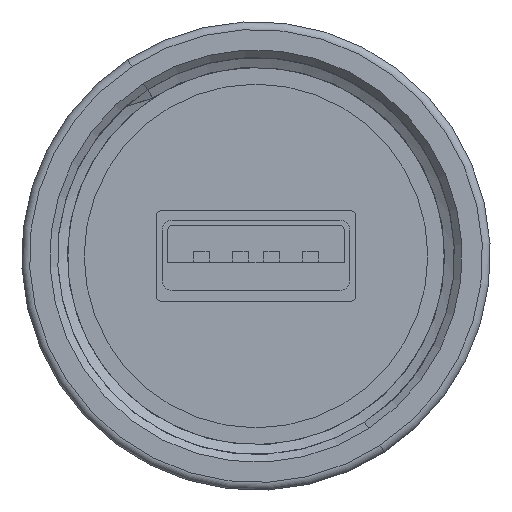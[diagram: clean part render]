
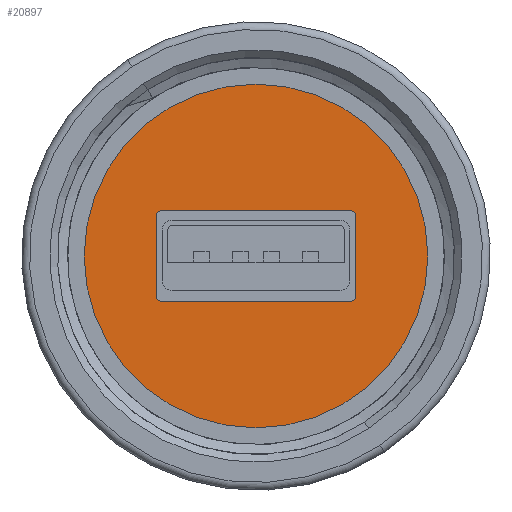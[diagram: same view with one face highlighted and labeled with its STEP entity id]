
A CAD part, front view. The second image highlights one B-rep face of the part: STEP entity #20897.
In plain terms, the highlighted planar face has unit normal (0, -1, 0).
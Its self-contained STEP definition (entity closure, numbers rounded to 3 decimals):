
#738 = LINE ( 'NONE', #11671, #28880 ) ;
#1211 = VERTEX_POINT ( 'NONE', #20522 ) ;
#2064 = CARTESIAN_POINT ( 'NONE',  ( 610.839, -8.1, 175.391 ) ) ;
#2240 = VERTEX_POINT ( 'NONE', #33540 ) ;
#3666 = EDGE_CURVE ( 'NONE', #20218, #18851, #29186, .T. ) ;
#4027 = CARTESIAN_POINT ( 'NONE',  ( 616.889, -8.1, 161.841 ) ) ;
#4458 = ORIENTED_EDGE ( 'NONE', *, *, #28924, .T. ) ;
#4505 = DIRECTION ( 'NONE',  ( 0., 1., 0. ) ) ;
#4776 = CIRCLE ( 'NONE', #27278, 0.35 ) ;
#5022 = CARTESIAN_POINT ( 'NONE',  ( 623.289, -8.1, 175.391 ) ) ;
#5720 = VECTOR ( 'NONE', #31319, 1000. ) ;
#6075 = DIRECTION ( 'NONE',  ( 0., 0., 1. ) ) ;
#6687 = VERTEX_POINT ( 'NONE', #11457 ) ;
#6988 = EDGE_LOOP ( 'NONE', ( #20673, #21668 ) ) ;
#7179 = EDGE_CURVE ( 'NONE', #6687, #30106, #29461, .T. ) ;
#7347 = DIRECTION ( 'NONE',  ( 0., 0., -1. ) ) ;
#8089 = ORIENTED_EDGE ( 'NONE', *, *, #3666, .T. ) ;
#8675 = CARTESIAN_POINT ( 'NONE',  ( 622.939, -8.1, 175.391 ) ) ;
#8729 = CARTESIAN_POINT ( 'NONE',  ( 610.839, -8.1, 170.291 ) ) ;
#8781 = DIRECTION ( 'NONE',  ( 1., 0., 0. ) ) ;
#9036 = DIRECTION ( 'NONE',  ( -1., 0., 0. ) ) ;
#9543 = VERTEX_POINT ( 'NONE', #12941 ) ;
#10525 = CARTESIAN_POINT ( 'NONE',  ( 622.939, -8.1, 170.291 ) ) ;
#10993 = LINE ( 'NONE', #21739, #19197 ) ;
#11082 = DIRECTION ( 'NONE',  ( 0., 0., 1. ) ) ;
#11457 = CARTESIAN_POINT ( 'NONE',  ( 610.489, -8.1, 175.391 ) ) ;
#11671 = CARTESIAN_POINT ( 'NONE',  ( 610.489, -8.1, 175.391 ) ) ;
#11994 = CIRCLE ( 'NONE', #32846, 0.35 ) ;
#12086 = ORIENTED_EDGE ( 'NONE', *, *, #29761, .T. ) ;
#12099 = EDGE_CURVE ( 'NONE', #20543, #1211, #14923, .T. ) ;
#12941 = CARTESIAN_POINT ( 'NONE',  ( 622.939, -8.1, 169.941 ) ) ;
#13220 = ORIENTED_EDGE ( 'NONE', *, *, #26158, .T. ) ;
#14859 = EDGE_CURVE ( 'NONE', #30048, #20218, #18799, .T. ) ;
#14923 = CIRCLE ( 'NONE', #19420, 11. ) ;
#16172 = DIRECTION ( 'NONE',  ( 0., 0., -1. ) ) ;
#16340 = VECTOR ( 'NONE', #8781, 1000. ) ;
#16349 = FACE_OUTER_BOUND ( 'NONE', #6988, .T. ) ;
#16943 = CARTESIAN_POINT ( 'NONE',  ( 623.289, -8.1, 175.391 ) ) ;
#16953 = DIRECTION ( 'NONE',  ( 0., 0., 1. ) ) ;
#18131 = ORIENTED_EDGE ( 'NONE', *, *, #19150, .T. ) ;
#18799 = CIRCLE ( 'NONE', #31769, 0.35 ) ;
#18822 = AXIS2_PLACEMENT_3D ( 'NONE', #26962, #24478, #11082 ) ;
#18851 = VERTEX_POINT ( 'NONE', #26027 ) ;
#19150 = EDGE_CURVE ( 'NONE', #2240, #31151, #11994, .T. ) ;
#19197 = VECTOR ( 'NONE', #9036, 1000. ) ;
#19420 = AXIS2_PLACEMENT_3D ( 'NONE', #23576, #26233, #34693 ) ;
#20218 = VERTEX_POINT ( 'NONE', #16943 ) ;
#20522 = CARTESIAN_POINT ( 'NONE',  ( 616.889, -8.1, 183.841 ) ) ;
#20543 = VERTEX_POINT ( 'NONE', #4027 ) ;
#20673 = ORIENTED_EDGE ( 'NONE', *, *, #12099, .F. ) ;
#20897 = ADVANCED_FACE ( 'NONE', ( #16349, #21809 ), #27105, .F. ) ;
#21668 = ORIENTED_EDGE ( 'NONE', *, *, #25985, .F. ) ;
#21739 = CARTESIAN_POINT ( 'NONE',  ( 610.839, -8.1, 169.941 ) ) ;
#21809 = FACE_BOUND ( 'NONE', #34397, .T. ) ;
#22554 = CARTESIAN_POINT ( 'NONE',  ( 610.839, -8.1, 175.741 ) ) ;
#22668 = CARTESIAN_POINT ( 'NONE',  ( 616.889, -8.1, 172.841 ) ) ;
#23257 = AXIS2_PLACEMENT_3D ( 'NONE', #2064, #26220, #7347 ) ;
#23576 = CARTESIAN_POINT ( 'NONE',  ( 616.889, -8.1, 172.841 ) ) ;
#23928 = DIRECTION ( 'NONE',  ( 0., 1., 0. ) ) ;
#24478 = DIRECTION ( 'NONE',  ( 0., 1., 0. ) ) ;
#24641 = ORIENTED_EDGE ( 'NONE', *, *, #33563, .T. ) ;
#24642 = CARTESIAN_POINT ( 'NONE',  ( 610.839, -8.1, 175.741 ) ) ;
#25168 = LINE ( 'NONE', #24642, #16340 ) ;
#25498 = DIRECTION ( 'NONE',  ( 0., 0., 1. ) ) ;
#25577 = CARTESIAN_POINT ( 'NONE',  ( 610.489, -8.1, 170.291 ) ) ;
#25985 = EDGE_CURVE ( 'NONE', #1211, #20543, #32887, .T. ) ;
#26027 = CARTESIAN_POINT ( 'NONE',  ( 623.289, -8.1, 170.291 ) ) ;
#26158 = EDGE_CURVE ( 'NONE', #18851, #9543, #4776, .T. ) ;
#26220 = DIRECTION ( 'NONE',  ( 0., 1., 0. ) ) ;
#26233 = DIRECTION ( 'NONE',  ( 0., 1., 0. ) ) ;
#26621 = ORIENTED_EDGE ( 'NONE', *, *, #7179, .T. ) ;
#26962 = CARTESIAN_POINT ( 'NONE',  ( 616.889, -8.1, 172.841 ) ) ;
#27105 = PLANE ( 'NONE',  #34701 ) ;
#27278 = AXIS2_PLACEMENT_3D ( 'NONE', #10525, #23928, #16172 ) ;
#27919 = DIRECTION ( 'NONE',  ( 0., 0., 1. ) ) ;
#28221 = CARTESIAN_POINT ( 'NONE',  ( 622.939, -8.1, 175.741 ) ) ;
#28880 = VECTOR ( 'NONE', #27919, 1000. ) ;
#28924 = EDGE_CURVE ( 'NONE', #30106, #30048, #25168, .T. ) ;
#29186 = LINE ( 'NONE', #5022, #5720 ) ;
#29461 = CIRCLE ( 'NONE', #23257, 0.35 ) ;
#29761 = EDGE_CURVE ( 'NONE', #9543, #2240, #10993, .T. ) ;
#29836 = DIRECTION ( 'NONE',  ( 0., 1., 0. ) ) ;
#30048 = VERTEX_POINT ( 'NONE', #28221 ) ;
#30106 = VERTEX_POINT ( 'NONE', #22554 ) ;
#30773 = DIRECTION ( 'NONE',  ( 0., 1., 0. ) ) ;
#31151 = VERTEX_POINT ( 'NONE', #25577 ) ;
#31319 = DIRECTION ( 'NONE',  ( 0., 0., -1. ) ) ;
#31769 = AXIS2_PLACEMENT_3D ( 'NONE', #8675, #29836, #16953 ) ;
#32846 = AXIS2_PLACEMENT_3D ( 'NONE', #8729, #30773, #6075 ) ;
#32887 = CIRCLE ( 'NONE', #18822, 11. ) ;
#33540 = CARTESIAN_POINT ( 'NONE',  ( 610.839, -8.1, 169.941 ) ) ;
#33563 = EDGE_CURVE ( 'NONE', #31151, #6687, #738, .T. ) ;
#34033 = ORIENTED_EDGE ( 'NONE', *, *, #14859, .T. ) ;
#34397 = EDGE_LOOP ( 'NONE', ( #13220, #12086, #18131, #24641, #26621, #4458, #34033, #8089 ) ) ;
#34693 = DIRECTION ( 'NONE',  ( 0., 0., 1. ) ) ;
#34701 = AXIS2_PLACEMENT_3D ( 'NONE', #22668, #4505, #25498 ) ;
